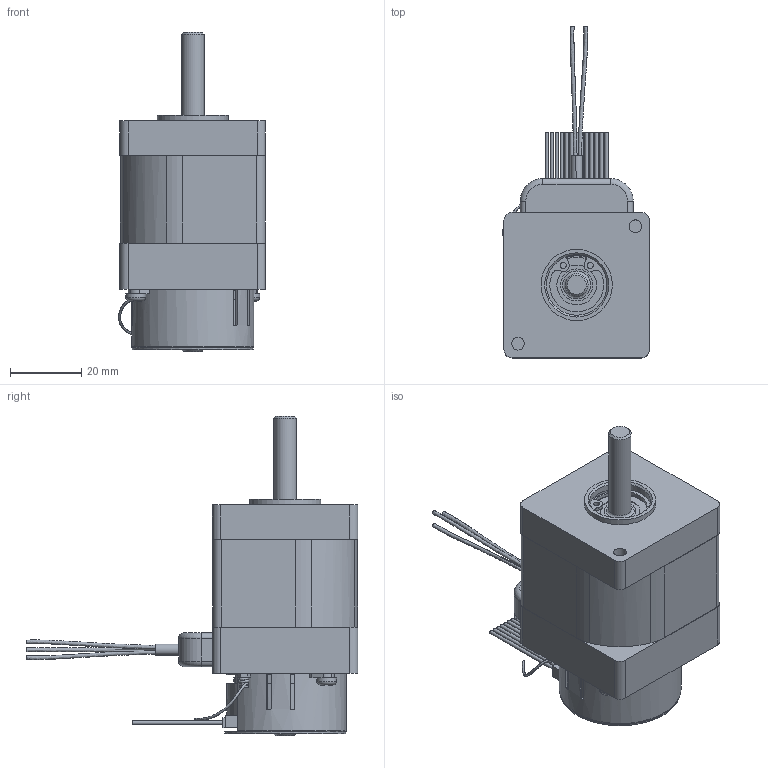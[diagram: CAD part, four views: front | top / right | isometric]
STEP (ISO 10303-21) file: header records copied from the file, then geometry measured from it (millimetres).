
FILE_DESCRIPTION((''),'2;1');
FILE_NAME('C:\CAD_work\Dummy_Modeling_Project_02-12-05\3D MODELS\BE162_FO.stp','2005-12-20T15:15:48',('jevans'),(''),'Autodesk Inventor 10','Autodesk Inventor 10','');
FILE_SCHEMA(('AUTOMOTIVE_DESIGN { 1 0 10303 214 1 1 1 1 }'));
Length unit declared in the file: inch
Products named in the file (1): BE16_FO
Bounding box: 41.31 x 93.29 x 89.79 mm (x, y, z)
Volume: 84390.2 mm3; surface area: 24436 mm2
Topology: 1 solids, 2 shells, 324 faces, 792 edges, 502 vertices
Faces by surface type: plane 194, cylinder 97, bspline 14, cone 11, torus 8
Full cylindrical faces by diameter (mm): 1.016 x13, 1.575 x1, 1.7 x2, 2.388 x1, 3.175 x1, 6.35 x2, 8.992 x1, 10.16 x1, 10.312 x1, 11.176 x2, 15.697 x1, 17 x1, 17.005 x2, 18.009 x1, 19.558 x1, 20.015 x1, 32.995 x1, 34.036 x1, 37.211 x1
Entity records: 11254 total; most frequent: CARTESIAN_POINT 3808, DIRECTION 1539, ORIENTED_EDGE 1478, EDGE_CURVE 739, AXIS2_PLACEMENT_3D 582, VERTEX_POINT 494, EDGE_LOOP 422, VECTOR 375
